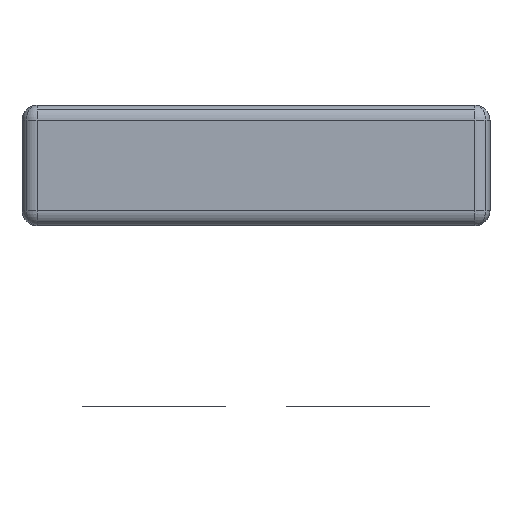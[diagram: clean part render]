
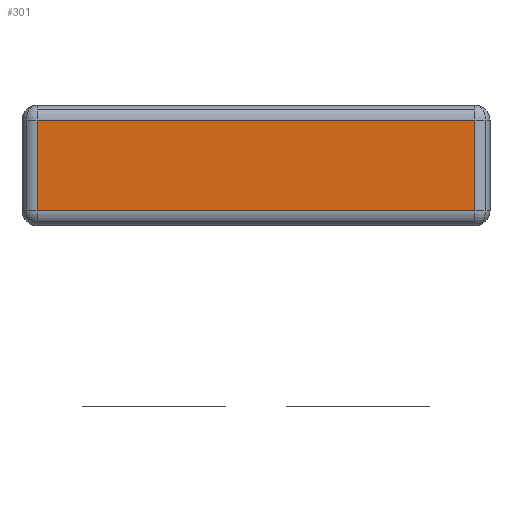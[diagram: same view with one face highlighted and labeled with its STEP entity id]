
A CAD part, front view. The second image highlights one B-rep face of the part: STEP entity #301.
In plain terms, the highlighted planar face has unit normal (0, -1, 0).
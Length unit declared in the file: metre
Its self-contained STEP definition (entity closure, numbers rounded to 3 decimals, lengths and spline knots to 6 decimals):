
#301=ADVANCED_FACE('0:402',(#764),#765,.T.);
#764=FACE_OUTER_BOUND('',#1261,.T.);
#765=PLANE('',#1262);
#1261=EDGE_LOOP('',(#3088,#3089,#3090,#3091));
#1262=AXIS2_PLACEMENT_3D('',#3092,#3093,#3094);
#3088=ORIENTED_EDGE('',*,*,#3379,.F.);
#3089=ORIENTED_EDGE('',*,*,#3795,.F.);
#3090=ORIENTED_EDGE('',*,*,#3796,.F.);
#3091=ORIENTED_EDGE('',*,*,#3273,.F.);
#3092=CARTESIAN_POINT('',(0.00775,0.0,0.0));
#3093=DIRECTION('',(0.0,-1.0,0.0));
#3094=DIRECTION('',(1.0,0.0,0.0));
#3273=EDGE_CURVE('4:33',#3909,#3911,#3912,.T.);
#3379=EDGE_CURVE('4:530',#4109,#3909,#4116,.T.);
#3795=EDGE_CURVE('4:24',#3888,#4109,#4747,.T.);
#3796=EDGE_CURVE('4:497',#3911,#3888,#4748,.T.);
#3888=VERTEX_POINT('',#4893);
#3909=VERTEX_POINT('',#4921);
#3911=VERTEX_POINT('',#4923);
#3912=LINE('',#4924,#4925);
#4109=VERTEX_POINT('',#5170);
#4116=LINE('',#5178,#5179);
#4747=LINE('',#6054,#6055);
#4748=LINE('',#6056,#6057);
#4893=CARTESIAN_POINT('',(0.015,0.0,0.0025));
#4921=CARTESIAN_POINT('',(0.0005,0.0,-0.0005));
#4923=CARTESIAN_POINT('',(0.0005,0.0,0.0025));
#4924=CARTESIAN_POINT('',(0.0005,0.0,0.0));
#4925=VECTOR('',#6256,1.0);
#5170=CARTESIAN_POINT('',(0.015,0.0,-0.0005));
#5178=CARTESIAN_POINT('',(0.003875,0.0,-0.0005));
#5179=VECTOR('',#6474,1.0);
#6054=CARTESIAN_POINT('',(0.015,0.0,0.0));
#6055=VECTOR('',#7268,1.0);
#6056=CARTESIAN_POINT('',(0.003875,0.0,0.0025));
#6057=VECTOR('',#7269,1.0);
#6256=DIRECTION('',(0.0,0.0,1.0));
#6474=DIRECTION('',(-1.0,0.0,0.0));
#7268=DIRECTION('',(0.0,-0.0,-1.0));
#7269=DIRECTION('',(1.0,-0.0,-0.0));
